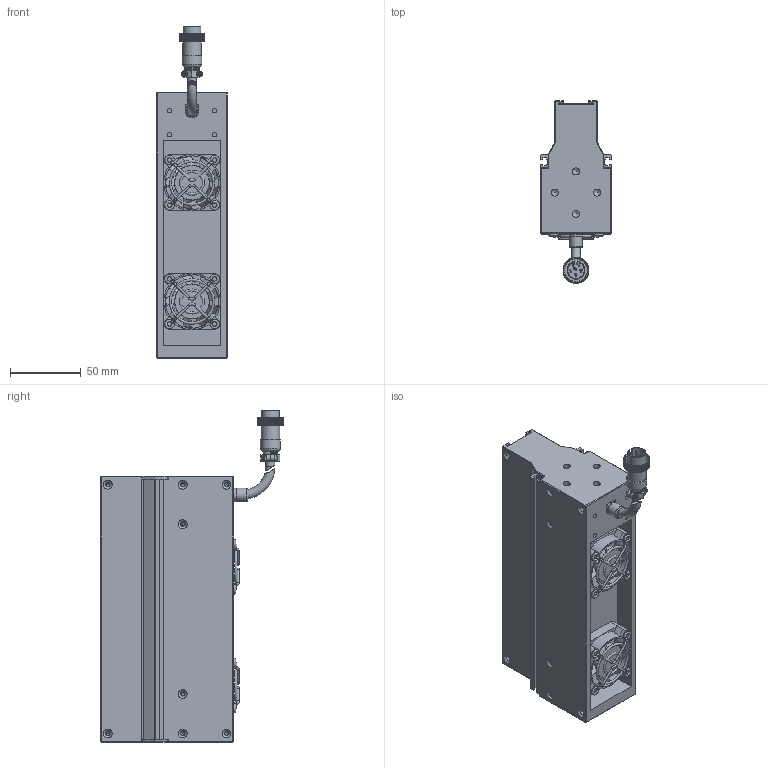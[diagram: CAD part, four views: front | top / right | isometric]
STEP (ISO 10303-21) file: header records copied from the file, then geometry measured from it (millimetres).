
FILE_DESCRIPTION (( 'STEP AP203' ), '1' );
FILE_NAME ('OPT-LSS188-W-V3.1U尨砩芞.STEP', '2025-01-20T08:44:40', ( 'USER' ), ( '' ), 'SwSTEP 2.0', 'SolidWorks 2016', '' );
FILE_SCHEMA (( 'CONFIG_CONTROL_DESIGN' ));
Products named in the file (2): OPT-LSS188-W-V3.1U尨砩芞
Bounding box: 50 x 129.15 x 234.83 mm (x, y, z)
Volume: 646781.7 mm3; surface area: 124588.6 mm2
Topology: 14 solids, 22 shells, 3719 faces, 8225 edges, 4614 vertices
Faces by surface type: bspline 2113, cylinder 760, plane 679, torus 118, cone 49
Full cylindrical faces by diameter (mm): 0.95 x6, 1.1 x2, 1.4 x2, 1.6 x8, 2 x6, 2.5 x16, 3.2 x12, 3.4 x16, 3.5 x4, 5 x8, 6.2 x8, 6.4 x3, 7.5 x1, 8.6 x1, 9.3 x1, 9.8 x1, 10 x1, 13.2 x1, 14 x1, 16.1 x1, 24.8 x2, 38 x2
Entity records: 125463 total; most frequent: CARTESIAN_POINT 63348, ORIENTED_EDGE 15918, EDGE_CURVE 7959, DIRECTION 6244, B_SPLINE_CURVE_WITH_KNOTS 5588, VERTEX_POINT 4552, EDGE_LOOP 4019, FACE_OUTER_BOUND 3866
